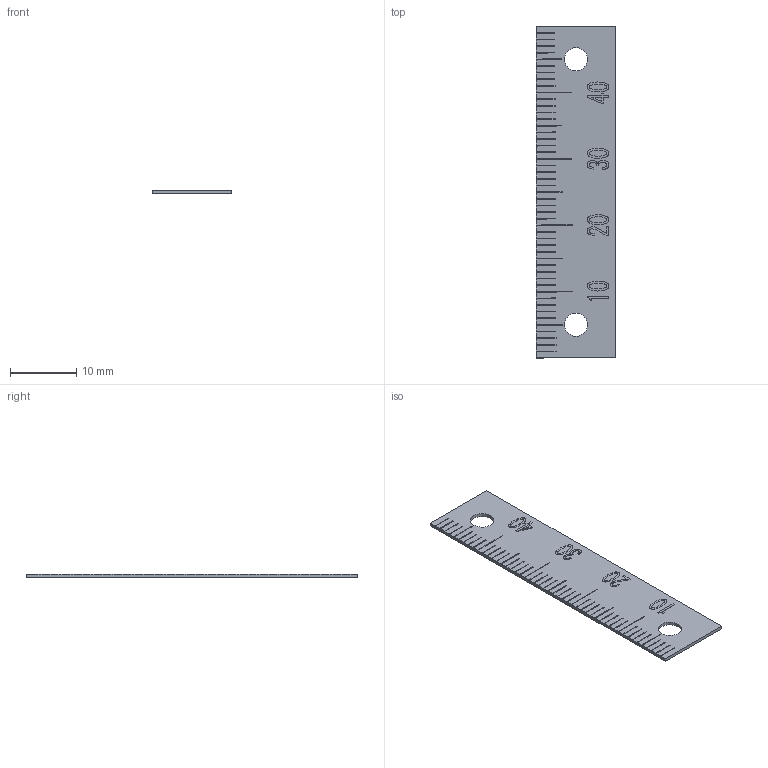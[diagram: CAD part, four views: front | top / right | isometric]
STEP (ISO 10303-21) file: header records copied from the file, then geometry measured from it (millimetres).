
FILE_DESCRIPTION (( 'STEP AP203' ), '1' );
FILE_NAME ('es2n-u50r.STEP', '2023-06-15T06:50:08', ( '' ), ( '' ), 'SwSTEP 2.0', 'SolidWorks 2021', '' );
FILE_SCHEMA (( 'CONFIG_CONTROL_DESIGN' ));
Length unit declared in the file: millimetre
Products named in the file (1): es2n-u50r
Bounding box: 12 x 50 x 0.5 mm (x, y, z)
Volume: 290.1 mm3; surface area: 1238.7 mm2
Topology: 1 solids, 1 shells, 348 faces, 999 edges, 666 vertices
Faces by surface type: plane 243, bspline 101, cylinder 4
Entity records: 15326 total; most frequent: CARTESIAN_POINT 6811, ORIENTED_EDGE 1998, DIRECTION 1301, EDGE_CURVE 999, LINE 789, VECTOR 789, VERTEX_POINT 666, EDGE_LOOP 365
